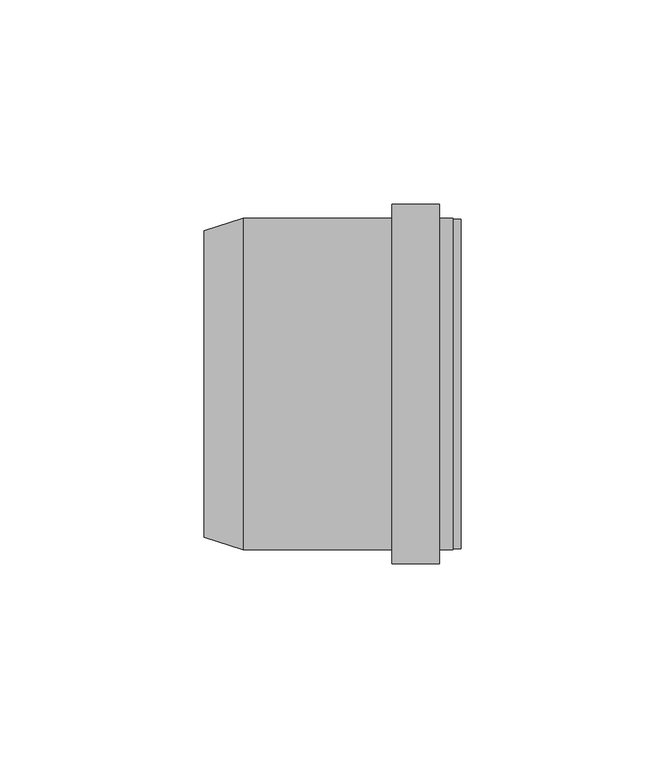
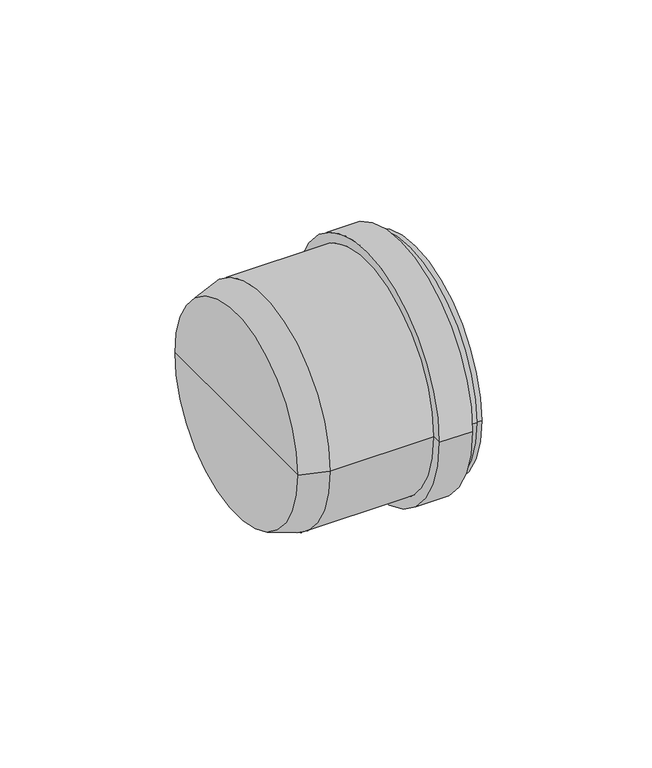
"""IFC4 building model written with IfcOpenShell, lengths in millimetres: pipe fitting geometry, pf_HTM_zatka : pf_HTM_zatka."""

from ifc_helpers import new_model, si_unit, frame, origin, place, context, project, spatial, polyline, circle_curve, source, transform, mapped, element, save
from ifc_brep_helpers import plane_surface, cylinder_surface, revolved_surface, advanced_brep


def pipe_fitting_a8834416(model_context):
    return source(origin(), model_context, "Body", "AdvancedBrep", [
        advanced_brep(
        [(-61.0, -37.5, 0.0), (-61.0, 37.5, 0.0), (-51.5, 40.6, 0.0), (-51.5, -40.6, 0.0), (-61.0, 0.0, 0.0), (0.0, -40.6, 0.0), (0.0, 40.6, 0.0), (0.0, 0.0, 0.0), (-3.4, -40.6, 0.0), (-3.4, 40.6, 0.0), (-3.4, -44.0, 0.0), (-3.4, 44.0, 0.0), (-15.0, -44.0, 0.0), (-15.0, 44.0, 0.0), (-15.0, -40.6, 0.0), (-15.0, 40.6, 0.0)],
        [
            (0, 1, circle_curve(frame((-61.0, 0.0, 0.0), z_axis=(1.0, 0.0, 0.0), x_axis=(0.0, 1.0, 0.0)), 37.5)),
            (1, 2),
            (2, 3, circle_curve(frame((-51.5, 0.0, 0.0), z_axis=(-1.0, 0.0, 0.0), x_axis=(0.0, 1.0, 0.0)), 40.6)),
            (3, 0),
            (1, 0, circle_curve(frame((-61.0, 0.0, 0.0), z_axis=(1.0, 0.0, 0.0), x_axis=(0.0, 1.0, 0.0)), 37.5)),
            (3, 2, circle_curve(frame((-51.5, 0.0, 0.0), z_axis=(-1.0, 0.0, 0.0), x_axis=(0.0, 1.0, 0.0)), 40.6)),
            (4, 1),
            (0, 4),
            (5, 6, circle_curve(frame((0.0, 0.0, 0.0), z_axis=(1.0, 0.0, 0.0), x_axis=(0.0, 1.0, 0.0)), 40.6)),
            (6, 7),
            (7, 5),
            (6, 5, circle_curve(frame((0.0, 0.0, 0.0), z_axis=(1.0, 0.0, 0.0), x_axis=(0.0, 1.0, 0.0)), 40.6)),
            (8, 9, circle_curve(frame((-3.4, 0.0, 0.0), z_axis=(1.0, 0.0, 0.0), x_axis=(0.0, 1.0, 0.0)), 40.6)),
            (9, 6),
            (5, 8),
            (9, 8, circle_curve(frame((-3.4, 0.0, 0.0), z_axis=(1.0, 0.0, 0.0), x_axis=(0.0, 1.0, 0.0)), 40.6)),
            (10, 11, circle_curve(frame((-3.4, 0.0, 0.0), z_axis=(1.0, 0.0, 0.0), x_axis=(0.0, 1.0, 0.0)), 44.0)),
            (11, 9),
            (8, 10),
            (11, 10, circle_curve(frame((-3.4, 0.0, 0.0), z_axis=(1.0, 0.0, 0.0), x_axis=(0.0, 1.0, 0.0)), 44.0)),
            (12, 13, circle_curve(frame((-15.0, 0.0, 0.0), z_axis=(1.0, 0.0, 0.0), x_axis=(0.0, 1.0, 0.0)), 44.0)),
            (13, 11),
            (10, 12),
            (13, 12, circle_curve(frame((-15.0, 0.0, 0.0), z_axis=(1.0, 0.0, 0.0), x_axis=(0.0, 1.0, 0.0)), 44.0)),
            (14, 15, circle_curve(frame((-15.0, 0.0, 0.0), z_axis=(1.0, 0.0, 0.0), x_axis=(0.0, 1.0, 0.0)), 40.6)),
            (15, 13),
            (12, 14),
            (15, 14, circle_curve(frame((-15.0, 0.0, 0.0), z_axis=(1.0, 0.0, 0.0), x_axis=(0.0, 1.0, 0.0)), 40.6)),
            (2, 15),
            (14, 3),
        ],
        [
            revolved_surface(polyline([(-51.5, 40.6, 0.0), (-61.0, 37.5, 0.0)]), (-61.0, 0.0, 0.0), (-1.0, 0.0, 0.0)),
            plane_surface(frame((-61.0, 0.0, 0.0), z_axis=(-1.0, 0.0, 0.0), x_axis=(0.0, 1.0, 0.0))),
            plane_surface(frame((0.0, 0.0, 0.0), z_axis=(1.0, 0.0, 0.0), x_axis=(0.0, 1.0, 0.0))),
            cylinder_surface(frame((-61.0, 0.0, 0.0), z_axis=(-1.0, 0.0, 0.0), x_axis=(0.0, 1.0, 0.0)), 40.6),
            plane_surface(frame((-3.4, 0.0, 0.0), z_axis=(1.0, 0.0, 0.0), x_axis=(0.0, 1.0, 0.0))),
            cylinder_surface(frame((-61.0, 0.0, 0.0), z_axis=(-1.0, 0.0, 0.0), x_axis=(0.0, 1.0, 0.0)), 44.0),
            plane_surface(frame((-15.0, 0.0, 0.0), z_axis=(-1.0, 0.0, 0.0), x_axis=(0.0, 1.0, 0.0))),
        ],
        [
            (0, [[1, 2, 3, 4]]),
            (0, [[5, -4, 6, -2]]),
            (1, [[7, -1, 8]]),
            (1, [[-8, -5, -7]]),
            (2, [[9, 10, 11]]),
            (2, [[12, -11, -10]]),
            (3, [[13, 14, -9, 15]]),
            (3, [[16, -15, -12, -14]]),
            (4, [[17, 18, -13, 19]]),
            (4, [[20, -19, -16, -18]]),
            (5, [[21, 22, -17, 23]]),
            (5, [[24, -23, -20, -22]]),
            (6, [[25, 26, -21, 27]]),
            (6, [[28, -27, -24, -26]]),
            (3, [[-3, 29, -25, 30]]),
            (3, [[-6, -30, -28, -29]]),
        ],
    ),
        advanced_brep(
        [(-43.0, 0.0, 0.0), (-43.0, 37.5, 0.0), (-43.0, -37.5, 0.0), (1.9, -40.34, 0.0), (1.9, 40.34, 0.0), (1.9, 0.0, 0.0), (0.0, -40.34, 0.0), (0.0, 40.34, 0.0), (0.0, -38.44, 0.0), (0.0, 38.44, 0.0), (-39.0, -38.44, 0.0), (-39.0, 38.44, 0.0)],
        [
            (0, 1),
            (1, 2, circle_curve(frame((-43.0, 0.0, 0.0), z_axis=(-1.0, 0.0, 0.0), x_axis=(0.0, 1.0, 0.0)), 37.5)),
            (2, 0),
            (2, 1, circle_curve(frame((-43.0, 0.0, 0.0), z_axis=(-1.0, 0.0, 0.0), x_axis=(0.0, 1.0, 0.0)), 37.5)),
            (3, 4, circle_curve(frame((1.9, 0.0, 0.0), z_axis=(1.0, 0.0, 0.0), x_axis=(0.0, 1.0, 0.0)), 40.34)),
            (4, 5),
            (5, 3),
            (4, 3, circle_curve(frame((1.9, 0.0, 0.0), z_axis=(1.0, 0.0, 0.0), x_axis=(0.0, 1.0, 0.0)), 40.34)),
            (6, 7, circle_curve(frame((0.0, 0.0, 0.0), z_axis=(1.0, 0.0, 0.0), x_axis=(0.0, 1.0, 0.0)), 40.34)),
            (7, 4),
            (3, 6),
            (7, 6, circle_curve(frame((0.0, 0.0, 0.0), z_axis=(1.0, 0.0, 0.0), x_axis=(0.0, 1.0, 0.0)), 40.34)),
            (8, 9, circle_curve(frame((0.0, 0.0, 0.0), z_axis=(1.0, 0.0, 0.0), x_axis=(0.0, 1.0, 0.0)), 38.44)),
            (9, 7),
            (6, 8),
            (9, 8, circle_curve(frame((0.0, 0.0, 0.0), z_axis=(1.0, 0.0, 0.0), x_axis=(0.0, 1.0, 0.0)), 38.44)),
            (10, 11, circle_curve(frame((-39.0, 0.0, 0.0), z_axis=(1.0, 0.0, 0.0), x_axis=(0.0, 1.0, 0.0)), 38.44)),
            (11, 9),
            (8, 10),
            (11, 10, circle_curve(frame((-39.0, 0.0, 0.0), z_axis=(1.0, 0.0, 0.0), x_axis=(0.0, 1.0, 0.0)), 38.44)),
            (1, 11),
            (10, 2),
        ],
        [
            plane_surface(frame((-43.0, 0.0, 0.0), z_axis=(-1.0, 0.0, 0.0), x_axis=(0.0, 1.0, 0.0))),
            plane_surface(frame((1.9, 0.0, 0.0), z_axis=(1.0, 0.0, 0.0), x_axis=(0.0, 1.0, 0.0))),
            cylinder_surface(frame((-42.0241529, 0.0, 0.0), z_axis=(-1.0, 0.0, 0.0), x_axis=(0.0, 1.0, 0.0)), 40.34),
            plane_surface(frame((0.0, 0.0, 0.0), z_axis=(-1.0, 0.0, 0.0), x_axis=(0.0, 1.0, 0.0))),
            cylinder_surface(frame((-42.0241529, 0.0, 0.0), z_axis=(-1.0, 0.0, 0.0), x_axis=(0.0, 1.0, 0.0)), 38.44),
            revolved_surface(polyline([(-39.0, 38.44, 0.0), (-43.0, 37.5, 0.0)]), (-42.0241529, 0.0, 0.0), (-1.0, 0.0, 0.0)),
        ],
        [
            (0, [[1, 2, 3]]),
            (0, [[-3, 4, -1]]),
            (1, [[5, 6, 7]]),
            (1, [[8, -7, -6]]),
            (2, [[9, 10, -5, 11]]),
            (2, [[12, -11, -8, -10]]),
            (3, [[13, 14, -9, 15]]),
            (3, [[16, -15, -12, -14]]),
            (4, [[17, 18, -13, 19]]),
            (4, [[20, -19, -16, -18]]),
            (5, [[-2, 21, -17, 22]]),
            (5, [[-4, -22, -20, -21]]),
        ],
    ),
    ])


if __name__ == "__main__":
    model = new_model("IFC4")
    model_context = context("Model", 3, world=origin())
    ifc_project = project(units=[si_unit("LENGTHUNIT", "METRE", prefix="MILLI")], contexts=[model_context])
    site = spatial("IfcSite", under=ifc_project)
    building = spatial("IfcBuilding", under=site)
    placement = place(None, origin())
    pipe_fitting_shape = pipe_fitting_a8834416(model_context)
    element("IfcPipeFitting", 1, ObjectType="pf_HTM_zatka : pf_HTM_zatka", at=placement, inside=building, context=model_context, shape_type="MappedRepresentation", body=[
        mapped(pipe_fitting_shape, transform((0.0, 0.0, 0.0), x_axis=(1.0, 0.0, 0.0), y_axis=(0.0, 1.0, 0.0), z_axis=(0.0, 0.0, 1.0))),
    ])
    save(model, "model.ifc")
